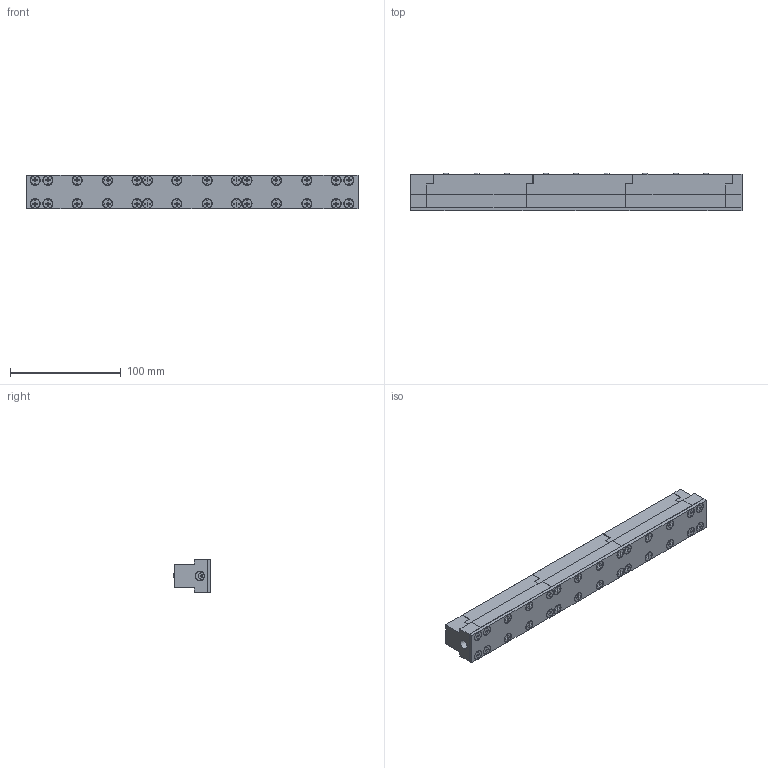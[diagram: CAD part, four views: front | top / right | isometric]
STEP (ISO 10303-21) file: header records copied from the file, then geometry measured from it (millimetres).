
FILE_DESCRIPTION( ( 'STEP AP214' ), '1' );
FILE_NAME( 'Z:/01-DesignData/標準品図面/★Web／カタログ用データ(型式別 3点Set)/020-ISR-22T リニューアル(''21-04-05)/ISR-22T-300_0_.stp', '2022-05-11T01:29:38', ( 'License CC BY-ND 4.0' ), ( 'CADENAS' ), ' ', 'PARTsolutions', ' ' );
FILE_SCHEMA( ( 'AUTOMOTIVE_DESIGN { 1 0 10303 214 1 1 1 1 }' ) );
Length unit declared in the file: millimetre
Products named in the file (6): ISR-22T-300(0); _ISR-22T-300(0)_body; _ISR-22T-300_lc; _ISR-22T-300_rc; _M3x10; _ISR-22T-300_ball
Assembly tree (20 placements, depth 2):
  ISR-22T-300(0)
    _ISR-22T-300(0)_body
    _ISR-22T-300_lc
    _ISR-22T-300_rc
    _M3x10  x8
    _ISR-22T-300_ball  x9
Bounding box: 300 x 34 x 30 mm (x, y, z)
Volume: 232761.8 mm3; surface area: 97290 mm2
Topology: 20 solids, 20 shells, 801 faces, 1962 edges, 1279 vertices
Faces by surface type: plane 620, cylinder 108, cone 47, torus 17, sphere 9
Full cylindrical faces by diameter (mm): 2 x1, 2.459 x8, 2.5 x1, 3 x8, 3.5 x8, 5.5 x8, 6.2 x1, 8 x1, 8.4 x28, 19 x9, 20 x9, 24 x18
Entity records: 23980 total; most frequent: CARTESIAN_POINT 3257, DIRECTION 3052, ORIENTED_EDGE 3048, EDGE_CURVE 1524, LINE 1332, VECTOR 1332, VERTEX_POINT 1065, AXIS2_PLACEMENT_3D 860
